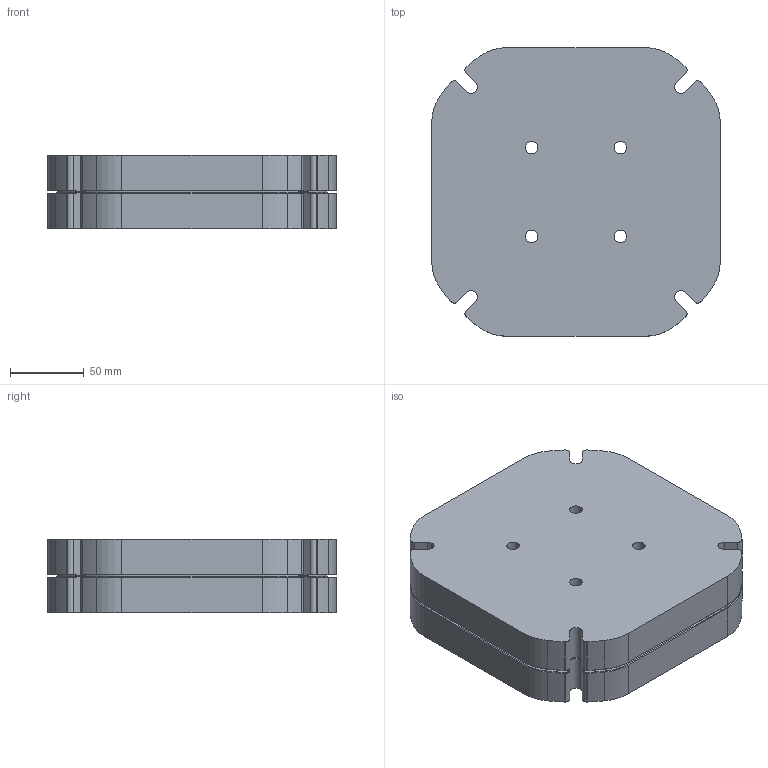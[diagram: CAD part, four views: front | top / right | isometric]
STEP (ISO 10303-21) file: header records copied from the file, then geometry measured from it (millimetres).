
FILE_DESCRIPTION(/* description */ (''),/* implementation_level */ '2;1');
FILE_NAME(/* name */ 'D:/gDrive/Moldmaking/1_Moneymaking/01_Readymade/Beads/Beads - Final - Publish v2.step',/* time_stamp */ '2022-02-01T16:00:45+01:00',/* author */ (''),/* organization */ (''),/* preprocessor_version */ 'ST-DEVELOPER v18.1',/* originating_system */ 'Autodesk Translation Framework v10.13.0.1454',/* authorisation */ '');
FILE_SCHEMA (('AUTOMOTIVE_DESIGN { 1 0 10303 214 3 1 1 }'));
Length unit declared in the file: millimetre
Products named in the file (3): Beads - Final - Publish; Top Beads; Bottom Beads
Assembly tree (2 placements, depth 2):
  Beads - Final - Publish
    Top Beads
    Bottom Beads
Bounding box: 195 x 195 x 50 mm (x, y, z)
Volume: 1640864.8 mm3; surface area: 202863.2 mm2
Topology: 2 solids, 2 shells, 1080 faces, 3109 edges, 2018 vertices
Faces by surface type: cone 273, plane 229, torus 218, cylinder 208, sphere 100, bspline 52
Full cylindrical faces by diameter (mm): 8 x4, 8.5 x8
Entity records: 41787 total; most frequent: CARTESIAN_POINT 12354, DIRECTION 6757, ORIENTED_EDGE 6178, EDGE_CURVE 3089, AXIS2_PLACEMENT_3D 2912, VERTEX_POINT 2018, CIRCLE 1847, EDGE_LOOP 1103
